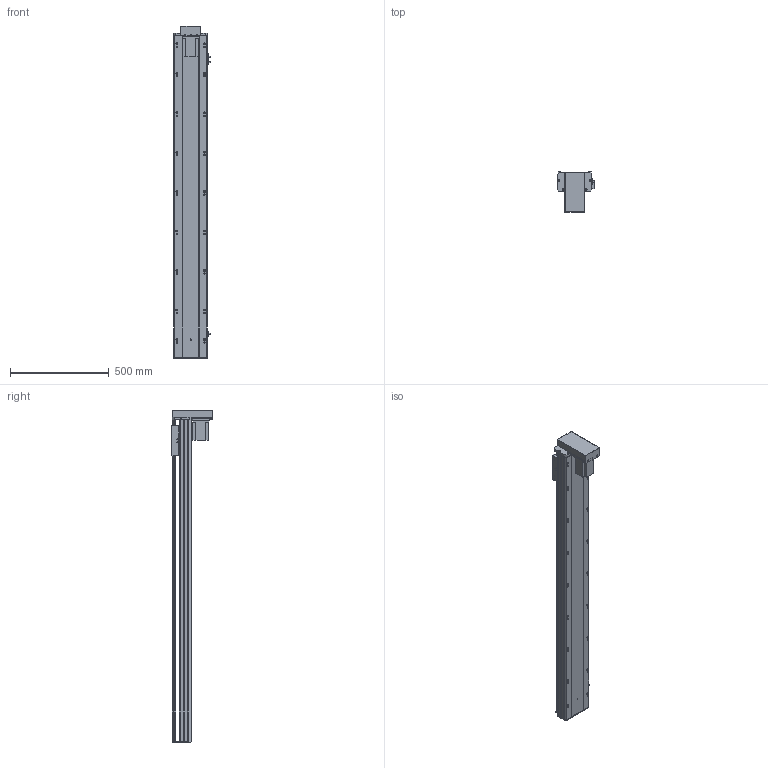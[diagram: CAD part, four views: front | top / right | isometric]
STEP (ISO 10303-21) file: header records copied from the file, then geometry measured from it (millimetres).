
FILE_DESCRIPTION (( 'STEP AP203' ), '1' );
FILE_NAME ('Y170-D10-S1400-BM-P750W.STEP', '2020-01-22T03:30:35', ( '微软用户' ), ( '微软中国' ), 'SwSTEP 2.0', 'SolidWorks 2017', '' );
FILE_SCHEMA (( 'CONFIG_CONTROL_DESIGN' ));
Length unit declared in the file: millimetre
Products named in the file (12): 170-BM耜蚾蟀諉啣; Y170-BM--P750W楊擘啣; -BM俋袗; Y170耜裔--準---; YD-Y100-135-新外置传感挡片(通用）; 170--掛极-BR; Y100-135俋离換覜ん; 侂狟750W; Y170-D10-S1400-BM-P750W; EGH20賑輸_蕼偞; Y雄赽釱-耜蚾; Y170-陔遴奻裔-BR
Assembly tree (14 placements, depth 2):
  Y170-D10-S1400-BM-P750W
    Y170耜裔--準---
    170--掛极-BR
    侂狟750W
    EGH20賑輸_蕼偞  x2
    Y雄赽釱-耜蚾
    Y170-陔遴奻裔-BR
    170-BM耜蚾蟀諉啣
    Y170-BM--P750W楊擘啣
    -BM俋袗
    YD-Y100-135-新外置传感挡片(通用）
    Y100-135俋离換覜ん  x3
Bounding box: 183.5 x 203.5 x 1683.5 mm (x, y, z)
Volume: 7544611.4 mm3; surface area: 2645049.9 mm2
Topology: 14 solids, 14 shells, 942 faces, 2700 edges, 1782 vertices
Faces by surface type: cylinder 490, plane 436, cone 16
Entity records: 30346 total; most frequent: CARTESIAN_POINT 5527, DIRECTION 4984, ORIENTED_EDGE 4896, EDGE_CURVE 2448, AXIS2_PLACEMENT_3D 1779, VERTEX_POINT 1626, VECTOR 1426, LINE 1426
